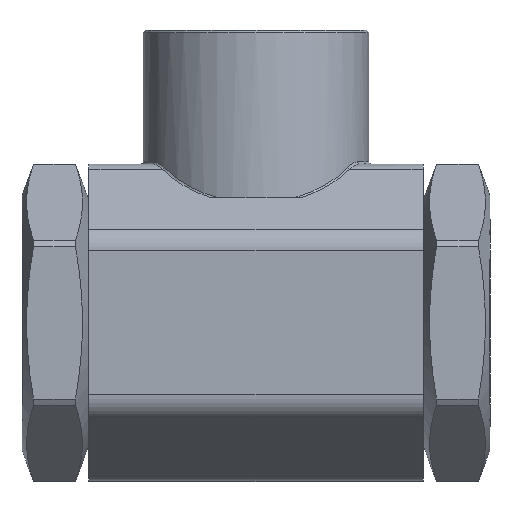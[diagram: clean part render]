
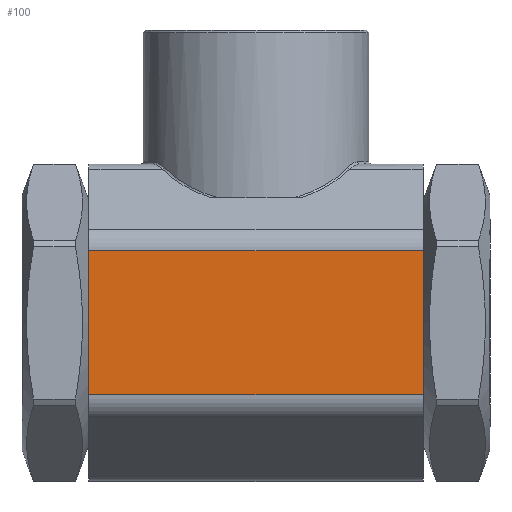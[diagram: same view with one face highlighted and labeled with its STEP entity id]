
A CAD part, front view. The second image highlights one B-rep face of the part: STEP entity #100.
In plain terms, the highlighted planar face has unit normal (0, -1, 0).
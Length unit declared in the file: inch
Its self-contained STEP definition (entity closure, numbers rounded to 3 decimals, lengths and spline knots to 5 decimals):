
#100 = ADVANCED_FACE ( 'NONE', ( #2822 ), #665, .F. ) ;
#321 = VECTOR ( 'NONE', #10605, 39.37008 ) ;
#365 = CARTESIAN_POINT ( 'NONE',  ( 1.5748, -1.49606, 0.67985 ) ) ;
#432 = CARTESIAN_POINT ( 'NONE',  ( -1.5748, -1.49606, 0.67985 ) ) ;
#665 = PLANE ( 'NONE',  #6383 ) ;
#1068 = LINE ( 'NONE', #3038, #13064 ) ;
#1081 = CARTESIAN_POINT ( 'NONE',  ( 1.5748, -1.49606, -0.67985 ) ) ;
#1341 = CARTESIAN_POINT ( 'NONE',  ( -1.5748, -1.49606, -0.67985 ) ) ;
#2245 = ORIENTED_EDGE ( 'NONE', *, *, #3190, .T. ) ;
#2361 = LINE ( 'NONE', #1341, #321 ) ;
#2822 = FACE_OUTER_BOUND ( 'NONE', #11912, .T. ) ;
#3038 = CARTESIAN_POINT ( 'NONE',  ( 1.5748, -1.49606, 0.67985 ) ) ;
#3190 = EDGE_CURVE ( 'NONE', #8540, #8066, #2361, .T. ) ;
#3226 = CARTESIAN_POINT ( 'NONE',  ( -1.5748, -1.49606, -0.67985 ) ) ;
#3997 = LINE ( 'NONE', #1081, #12455 ) ;
#4028 = CARTESIAN_POINT ( 'NONE',  ( 1.5748, -1.49606, -0.67985 ) ) ;
#4068 = EDGE_CURVE ( 'NONE', #8330, #8540, #1068, .T. ) ;
#4490 = VERTEX_POINT ( 'NONE', #12030 ) ;
#4766 = ORIENTED_EDGE ( 'NONE', *, *, #7173, .F. ) ;
#6046 = VECTOR ( 'NONE', #8290, 39.37008 ) ;
#6383 = AXIS2_PLACEMENT_3D ( 'NONE', #11071, #12236, #12376 ) ;
#7173 = EDGE_CURVE ( 'NONE', #8330, #4490, #3997, .T. ) ;
#8066 = VERTEX_POINT ( 'NONE', #3226 ) ;
#8132 = DIRECTION ( 'NONE',  ( 0., 0., -1. ) ) ;
#8290 = DIRECTION ( 'NONE',  ( -1., 0., 0. ) ) ;
#8330 = VERTEX_POINT ( 'NONE', #365 ) ;
#8540 = VERTEX_POINT ( 'NONE', #432 ) ;
#10377 = LINE ( 'NONE', #4028, #6046 ) ;
#10605 = DIRECTION ( 'NONE',  ( 0., 0., -1. ) ) ;
#10933 = EDGE_CURVE ( 'NONE', #4490, #8066, #10377, .T. ) ;
#11006 = ORIENTED_EDGE ( 'NONE', *, *, #10933, .F. ) ;
#11071 = CARTESIAN_POINT ( 'NONE',  ( 1.5748, -1.49606, -0.67985 ) ) ;
#11299 = ORIENTED_EDGE ( 'NONE', *, *, #4068, .T. ) ;
#11912 = EDGE_LOOP ( 'NONE', ( #2245, #11006, #4766, #11299 ) ) ;
#12030 = CARTESIAN_POINT ( 'NONE',  ( 1.5748, -1.49606, -0.67985 ) ) ;
#12236 = DIRECTION ( 'NONE',  ( 0., 1., 0. ) ) ;
#12376 = DIRECTION ( 'NONE',  ( 0., 0., 1. ) ) ;
#12455 = VECTOR ( 'NONE', #8132, 39.37008 ) ;
#12511 = DIRECTION ( 'NONE',  ( -1., 0., 0. ) ) ;
#13064 = VECTOR ( 'NONE', #12511, 39.37008 ) ;
